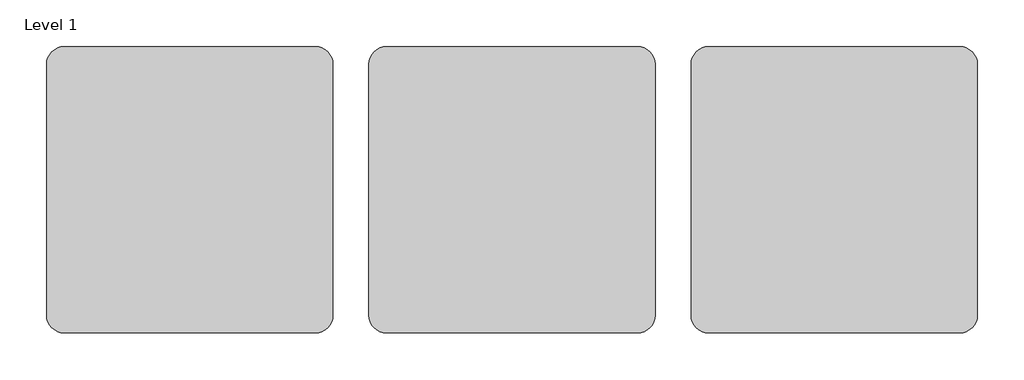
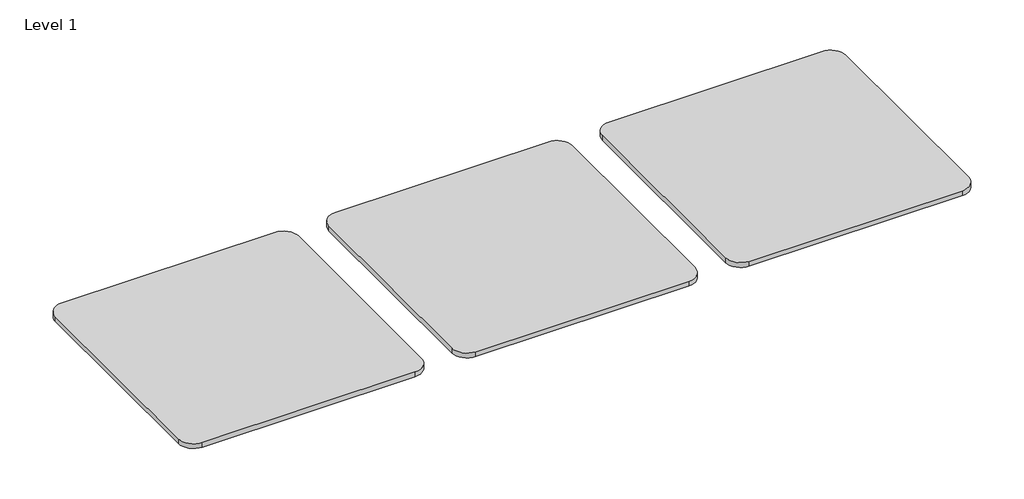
# One storey: 3 proxies.
"""IFC4 building model written with IfcOpenShell, lengths in millimetres."""

import ifcopenshell
import ifcopenshell.guid

model = None  # the IFC model being written
_history = None  # IfcOwnerHistory: only IFC2X3 demands one
_inside = {}  # id of a spatial element -> (the spatial element, [elements in it])
_under = {}  # id of a project, library or spatial element -> (it, [spatial elements below it])
_declared = {}  # id of a project -> (the project, [libraries it declares])
_typed = {}  # id of a type object -> (the type object, [elements of that type])
_made_of = {}  # id of a material, layer set ... -> (it, [elements and type objects made of it])


def new_model(schema):
    """Start an empty IFC model of exactly this schema.

    Asked for "IFC4X3", IfcOpenShell would pick the latest addendum, in which some entities
    have other attributes; the version numbers below select the first issue.
    IFC2X3 requires an IfcOwnerHistory on every rooted entity: one is made here for all.
    """
    global model, _history
    if schema == "IFC4X3":
        model = ifcopenshell.file(schema_version=(4, 3, 0, 0))
    else:
        model = ifcopenshell.file(schema=schema)
    _inside.clear()
    _under.clear()
    _declared.clear()
    _typed.clear()
    _made_of.clear()
    _history = None
    if model.schema == "IFC2X3":
        org = make("IfcOrganization", Name="unknown")
        user = make(
            "IfcPersonAndOrganization",
            ThePerson=make("IfcPerson", FamilyName="unknown"),
            TheOrganization=org,
        )
        app = make(
            "IfcApplication",
            ApplicationDeveloper=org,
            Version="unknown",
            ApplicationFullName="unknown",
            ApplicationIdentifier="unknown",
        )
        _history = make(
            "IfcOwnerHistory",
            OwningUser=user,
            OwningApplication=app,
            ChangeAction="ADDED",
            CreationDate=0,
        )
    return model


def make(cls, **values):
    """One entity of the class cls with the attributes given. An attribute that is None is left unset."""
    return model.create_entity(
        cls, **{name: value for name, value in values.items() if value is not None}
    )


def rooted(cls, **values):
    """An entity with a GlobalId (a new one), such as an element, a storey or a relation."""
    return make(cls, GlobalId=ifcopenshell.guid.new(), OwnerHistory=_history, **values)


def si_unit(unit_type, name, prefix=None):
    """IfcSIUnit, for example si_unit("LENGTHUNIT", "METRE", prefix="MILLI")."""
    return make("IfcSIUnit", UnitType=unit_type, Prefix=prefix, Name=name)


def assignment(units):
    """IfcUnitAssignment: the units of a project."""
    return None if units is None else make("IfcUnitAssignment", Units=units)


def point(xyz):
    """IfcCartesianPoint."""
    return None if xyz is None else make("IfcCartesianPoint", Coordinates=xyz)


def direction(xyz):
    """IfcDirection."""
    return None if xyz is None else make("IfcDirection", DirectionRatios=xyz)


def frame(location, z_axis=None, x_axis=None):
    """IfcAxis2Placement3D, a coordinate frame: its origin and axes. An axis left out is left unset."""
    return make(
        "IfcAxis2Placement3D",
        Location=point(location),
        Axis=direction(z_axis),
        RefDirection=direction(x_axis),
    )


def frame_2d(location, x_axis=None):
    """IfcAxis2Placement2D, a coordinate frame in the plane: its origin and x axis."""
    return make(
        "IfcAxis2Placement2D", Location=point(location), RefDirection=direction(x_axis)
    )


def origin():
    """The frame at (0, 0, 0) with its axes left unset."""
    return frame((0.0, 0.0, 0.0))


def origin_with_axes():
    """The frame at (0, 0, 0) with the z axis (0, 0, 1) and the x axis (1, 0, 0) written out."""
    return frame((0.0, 0.0, 0.0), z_axis=(0.0, 0.0, 1.0), x_axis=(1.0, 0.0, 0.0))


def place(relative_to, where):
    """IfcLocalPlacement: puts the frame where relative to a parent placement (None: the world)."""
    return make(
        "IfcLocalPlacement", PlacementRelTo=relative_to, RelativePlacement=where
    )


def context(
    kind, dimensions, precision=None, world=None, true_north=None, identifier=None
):
    """IfcGeometricRepresentationContext, for example the 3D "Model" context."""
    return make(
        "IfcGeometricRepresentationContext",
        ContextIdentifier=identifier,
        ContextType=kind,
        CoordinateSpaceDimension=dimensions,
        Precision=precision,
        WorldCoordinateSystem=world,
        TrueNorth=true_north,
    )


def project(units=None, contexts=None):
    """IfcProject with its units and contexts."""
    return rooted(
        "IfcProject",
        Name="project",
        RepresentationContexts=contexts,
        UnitsInContext=assignment(units),
    )


def spatial(cls, under=None, at=None, **own):
    """A site, building, storey or space (cls), placed at a placement, below another one or the project."""
    s = rooted(cls, ObjectPlacement=at, **own)
    if under is not None:
        _under.setdefault(under.id(), (under, []))[1].append(s)
    return s


def polyline(points):
    """IfcPolyline through the points."""
    return make("IfcPolyline", Points=[point(p) for p in points])


def circle_curve(where, radius):
    """IfcCircle in the frame where."""
    return make("IfcCircle", Position=where, Radius=radius)


def trimmed(basis, trim1, trim2, sense, master):
    """IfcTrimmedCurve: the piece of a basis curve between two trims."""
    return make(
        "IfcTrimmedCurve",
        BasisCurve=basis,
        Trim1=trim1,
        Trim2=trim2,
        SenseAgreement=sense,
        MasterRepresentation=master,
    )


def segment(curve, same_sense, transition):
    """IfcCompositeCurveSegment."""
    return make(
        "IfcCompositeCurveSegment",
        Transition=transition,
        SameSense=same_sense,
        ParentCurve=curve,
    )


def composite_curve(segments, self_intersect=None):
    """IfcCompositeCurve: segments joined end to end."""
    return make("IfcCompositeCurve", Segments=segments, SelfIntersect=self_intersect)


def outline(outer, holes=None, kind="AREA"):
    """IfcArbitraryClosedProfileDef: a profile drawn as a closed curve; with holes, ...WithVoids."""
    if holes is None:
        return make("IfcArbitraryClosedProfileDef", ProfileType=kind, OuterCurve=outer)
    return make(
        "IfcArbitraryProfileDefWithVoids",
        ProfileType=kind,
        OuterCurve=outer,
        InnerCurves=holes,
    )


def extrude(swept, where, along, depth):
    """IfcExtrudedAreaSolid: the profile swept, set in the frame where, extruded along a direction by depth."""
    return make(
        "IfcExtrudedAreaSolid",
        SweptArea=swept,
        Position=where,
        ExtrudedDirection=direction(along),
        Depth=depth,
    )


def shape(context_of_items, identifier, shape_type, items):
    """IfcShapeRepresentation: the items that make up one representation, for example the "Body"."""
    return make(
        "IfcShapeRepresentation",
        ContextOfItems=context_of_items,
        RepresentationIdentifier=identifier,
        RepresentationType=shape_type,
        Items=items,
    )


def source(mapping_origin, context_of_items, identifier, shape_type, items):
    """IfcRepresentationMap: a shape defined once, which mapped items show again and again."""
    return make(
        "IfcRepresentationMap",
        MappingOrigin=mapping_origin,
        MappedRepresentation=shape(context_of_items, identifier, shape_type, items),
    )


def transform(
    local_origin,
    x_axis=None,
    y_axis=None,
    z_axis=None,
    scale=None,
    scale2=None,
    scale3=None,
    uniform=True,
):
    """IfcCartesianTransformationOperator3D, or its non-uniform kind. x_axis, y_axis, z_axis: its Axis1, 2, 3."""
    if uniform:
        return make(
            "IfcCartesianTransformationOperator3D",
            Axis1=direction(x_axis),
            Axis2=direction(y_axis),
            LocalOrigin=point(local_origin),
            Scale=scale,
            Axis3=direction(z_axis),
        )
    return make(
        "IfcCartesianTransformationOperator3DnonUniform",
        Axis1=direction(x_axis),
        Axis2=direction(y_axis),
        LocalOrigin=point(local_origin),
        Scale=scale,
        Axis3=direction(z_axis),
        Scale2=scale2,
        Scale3=scale3,
    )


def mapped(mapping_source, mapping_target):
    """IfcMappedItem: shows the shape of a source again, moved by a transform."""
    return make(
        "IfcMappedItem", MappingSource=mapping_source, MappingTarget=mapping_target
    )


def made_of(thing, what):
    """Note that an element or type object is made of a material, layer set ...; save() writes the relation."""
    if what is not None:
        _made_of.setdefault(what.id(), (what, []))[1].append(thing)
    return thing


def element(
    cls,
    number,
    at=None,
    inside=None,
    cuts=None,
    type_object=None,
    material=None,
    context=None,
    identifier="Body",
    shape_type=None,
    held_by="IfcProductDefinitionShape",
    body=None,
    shapes=None,
    **own,
):
    """One element of the class cls, such as IfcWall. Its Tag is "e" and its number.

    at: its placement. inside: the storey or other place that contains it. cuts: it is an
    opening in that element (IfcRelVoidsElement). A single representation is given by context,
    identifier, shape_type and body (its items); several are given by shapes. held_by: the class
    of the entity that holds the representations. save() writes the other relations.
    """
    e = rooted(cls, Tag="e%d" % number, ObjectPlacement=at, **own)
    if body is not None:
        shapes = [shape(context, identifier, shape_type, body)]
    if shapes is not None:
        e.Representation = make(held_by, Representations=shapes)
    if inside is not None:
        _inside.setdefault(inside.id(), (inside, []))[1].append(e)
    if cuts is not None:
        rooted(
            "IfcRelVoidsElement", RelatingBuildingElement=cuts, RelatedOpeningElement=e
        )
    if type_object is not None:
        _typed.setdefault(type_object.id(), (type_object, []))[1].append(e)
    return made_of(e, material)


def aggregate(whole, parts):
    """IfcRelAggregates: a whole, such as a stair, and the parts it consists of."""
    return rooted("IfcRelAggregates", RelatingObject=whole, RelatedObjects=parts)


def save(model, path):
    """Write the relations noted so far, then the file.

    IfcRelAggregates (storeys below a building ...), IfcRelContainedInSpatialStructure (elements
    in a storey), IfcRelDefinesByType, IfcRelAssociatesMaterial and IfcRelDeclares: one each for
    every whole, place, type object, material and project.
    """
    for whole, parts in _under.values():
        aggregate(whole, parts)
    for where, things in _inside.values():
        rooted(
            "IfcRelContainedInSpatialStructure",
            RelatedElements=things,
            RelatingStructure=where,
        )
    for kind, things in _typed.values():
        rooted("IfcRelDefinesByType", RelatedObjects=things, RelatingType=kind)
    for what, things in _made_of.values():
        rooted("IfcRelAssociatesMaterial", RelatedObjects=things, RelatingMaterial=what)
    for by, libraries in _declared.values():
        rooted("IfcRelDeclares", RelatingContext=by, RelatedDefinitions=libraries)
    model.write(path)


def materialsample_type_1_fd88ffb6(model_context):
    return source(origin(), model_context, "Body", "SweptSolid", [
        extrude(outline(composite_curve([segment(polyline([(1143.0, 0.0), (76.2, 0.0)]), True, "CONTINUOUS"), segment(trimmed(circle_curve(frame_2d((76.2, 76.2)), 76.2), [point((76.2, 0.0))], [point((0.0, 76.2))], False, "CARTESIAN"), True, "CONTINUOUS"), segment(polyline([(0.0, 76.2), (0.0, 1143.0)]), True, "CONTINUOUS"), segment(trimmed(circle_curve(frame_2d((76.2, 1143.0)), 76.2), [point((0.0, 1143.0))], [point((76.2, 1219.2))], False, "CARTESIAN"), True, "CONTINUOUS"), segment(polyline([(76.2, 1219.2), (1143.0, 1219.2)]), True, "CONTINUOUS"), segment(trimmed(circle_curve(frame_2d((1143.0, 1143.0)), 76.2), [point((1143.0, 1219.2))], [point((1219.2, 1143.0))], False, "CARTESIAN"), True, "CONTINUOUS"), segment(polyline([(1219.2, 1143.0), (1219.2, 76.2)]), True, "CONTINUOUS"), segment(trimmed(circle_curve(frame_2d((1143.0, 76.2)), 76.2), [point((1219.2, 76.2))], [point((1143.0, 0.0))], False, "CARTESIAN"), True, "CONTINUOUS")], self_intersect=False)), origin_with_axes(), (0.0, 0.0, 1.0), 25.4),
    ])


model = new_model("IFC4")

# Units and contexts
model_context = context("Model", 3, world=origin())
ifc_project = project(units=[si_unit("LENGTHUNIT", "METRE", prefix="MILLI")], contexts=[model_context])

# Site, building, storey
site = spatial("IfcSite", under=ifc_project)
building = spatial("IfcBuilding", under=site)
storey = spatial("IfcBuildingStorey", under=building, Name="Level 1", Elevation=0.0)

# Proxies
placement = place(None, origin())
materialsample_type_1_shape = materialsample_type_1_fd88ffb6(model_context)
element("IfcBuildingElementProxy", 1, Name="MaterialSample : Type 1", ObjectType="MaterialSample : Type 1", at=placement, inside=storey, context=model_context, shape_type="MappedRepresentation", body=[
    mapped(materialsample_type_1_shape, transform((-438.3192914, -2094.8043562, 0.0), x_axis=(1.0, 0.0, 0.0), y_axis=(0.0, 1.0, 0.0), z_axis=(0.0, 0.0, 1.0))),
])
element("IfcBuildingElementProxy", 2, Name="MaterialSample : Type 1", ObjectType="MaterialSample : Type 1", at=placement, inside=storey, context=model_context, shape_type="MappedRepresentation", body=[
    mapped(materialsample_type_1_shape, transform((933.2807086, -2094.8043562, 0.0), x_axis=(1.0, 0.0, 0.0), y_axis=(0.0, 1.0, 0.0), z_axis=(0.0, 0.0, 1.0))),
])
element("IfcBuildingElementProxy", 3, Name="MaterialSample : Type 1", ObjectType="MaterialSample : Type 1", at=placement, inside=storey, context=model_context, shape_type="MappedRepresentation", body=[
    mapped(materialsample_type_1_shape, transform((2304.8807086, -2094.8043562, 0.0), x_axis=(1.0, 0.0, 0.0), y_axis=(0.0, 1.0, 0.0), z_axis=(0.0, 0.0, 1.0))),
])

save(model, "model.ifc")
